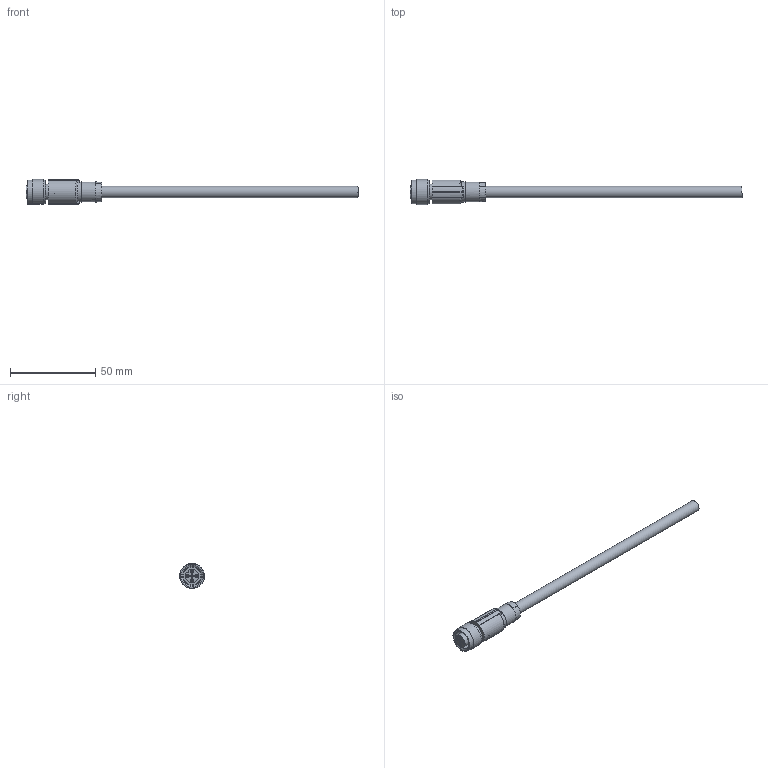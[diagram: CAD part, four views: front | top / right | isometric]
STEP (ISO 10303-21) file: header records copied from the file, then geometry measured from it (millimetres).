
FILE_DESCRIPTION( ( 'Unknown' ), '1' );
FILE_NAME( 'U:/PCR/Kabel Phoenix/WI1006M12F5SxxR.stp', 'Unknown', ( 'Unknown' ), ( 'Unknown' ), 'PSStep 11.0', 'Unknown', ' ' );
FILE_SCHEMA( ( 'AUTOMOTIVE_DESIGN { 1 0 10303 214 1 1 1 1 }' ) );
Length unit declared in the file: millimetre
Products named in the file (1): 1507489
Bounding box: 194.5 x 14.68 x 15 mm (x, y, z)
Volume: 10902.7 mm3; surface area: 6235.2 mm2
Topology: 1 solids, 1 shells, 115 faces, 302 edges, 201 vertices
Faces by surface type: plane 43, cone 29, cylinder 26, bspline 10, torus 6, extrusion 1
Full cylindrical faces by diameter (mm): 1.2 x5, 6.7 x1, 9.3 x1, 10.5 x1, 11 x1, 11.6 x1, 12 x1, 14 x1
Entity records: 7835 total; most frequent: CARTESIAN_POINT 4348, ORIENTED_EDGE 548, DIRECTION 457, EDGE_CURVE 274, VERTEX_POINT 193, AXIS2_PLACEMENT_3D 181, EDGE_LOOP 149, FACE_OUTER_BOUND 127
